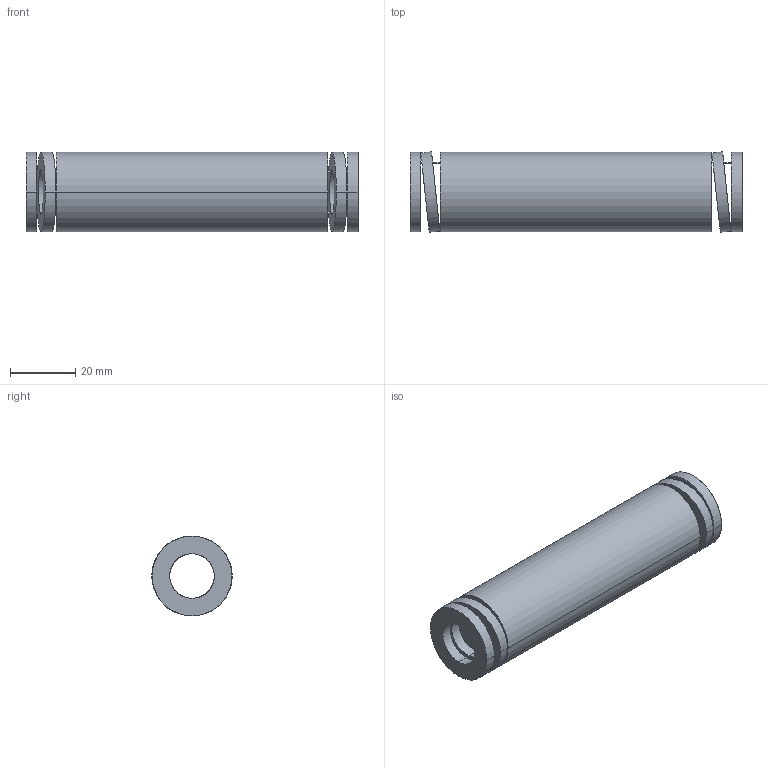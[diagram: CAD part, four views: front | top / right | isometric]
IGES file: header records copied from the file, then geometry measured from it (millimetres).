
Start section: START RECORD GO HERE.
Global section: file name: 392-B25-102.igs; native system: DASSAULT SYSTEMES CATIA V5 R20 - www.3ds.com; preprocessor: CATIA Version 5 Release 20 ; author: Utente; organization: NB04-ASUS; date: 20210813.094635; units: millimetre
Bounding box: 102 x 24.71 x 24.5 mm (x, y, z)
Surface area: 14843.5 mm2 (no closed solid volume)
Topology: 0 solids, 0 shells, 38 faces, 184 edges, 184 vertices
Faces by surface type: revolution 28, plane 10
